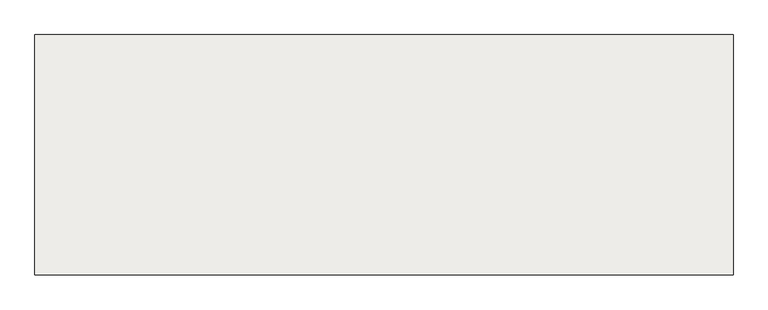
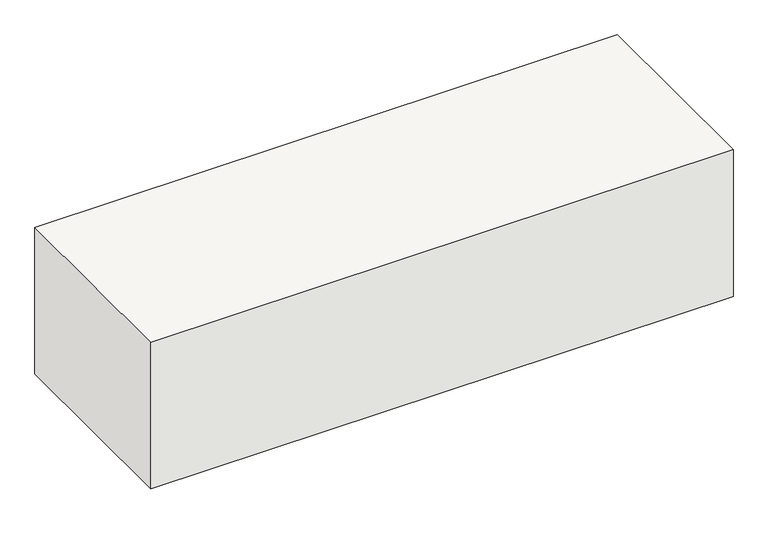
"""IFC4 building model written with IfcOpenShell, lengths in millimetres: slab geometry, ИЗТТ_Перекрытие : ИЗТТ_Перекрытие."""

from ifc_helpers import new_model, si_unit, frame, origin, place, context, project, spatial, polyline, outline, extrude, source, transform, mapped, element, save


def slab_f59de0b8(model_context):
    return source(origin(), model_context, "Body", "SweptSolid", [
        extrude(outline(polyline([(4922.6521551, -7719.8911289), (4922.6521551, -7767.8911289), (2898.6521551, -7767.8911289), (2898.6521551, -7719.8911289), (4922.6521551, -7719.8911289)])), frame((0.0, 0.0, 2655.0), z_axis=(0.0, 0.0, 1.0), x_axis=(1.0, 0.0, 0.0)), (0.0, 0.0, 1.0), 100.0),
        extrude(outline(polyline([(4922.6521551, -8372.8911289), (2898.6521551, -8372.8911289), (2898.6521551, -8324.8911289), (4922.6521551, -8324.8911289), (4922.6521551, -8372.8911289)])), frame((0.0, 0.0, 2655.0), z_axis=(0.0, 0.0, 1.0), x_axis=(1.0, 0.0, 0.0)), (0.0, 0.0, 1.0), 100.0),
        extrude(outline(polyline([(5210.6521551, -8546.3911289), (2598.6521551, -8546.3911289), (2598.6521551, -7646.3911289), (5210.6521551, -7646.3911289), (5210.6521551, -8546.3911289)])), frame((0.0, 0.0, 2755.0), z_axis=(0.0, 0.0, 1.0), x_axis=(1.0, 0.0, 0.0)), (0.0, 0.0, 1.0), 695.0),
    ])


if __name__ == "__main__":
    model = new_model("IFC4")
    model_context = context("Model", 3, world=origin())
    ifc_project = project(units=[si_unit("LENGTHUNIT", "METRE", prefix="MILLI")], contexts=[model_context])
    site = spatial("IfcSite", under=ifc_project)
    building = spatial("IfcBuilding", under=site)
    placement = place(None, origin())
    slab_shape = slab_f59de0b8(model_context)
    element("IfcSlab", 1, ObjectType="ИЗТТ_Перекрытие : ИЗТТ_Перекрытие", at=placement, inside=building, context=model_context, shape_type="MappedRepresentation", body=[
        mapped(slab_shape, transform((0.0, 0.0, 0.0), x_axis=(1.0, 0.0, 0.0), y_axis=(0.0, 1.0, 0.0), z_axis=(0.0, 0.0, 1.0))),
    ])
    save(model, "model.ifc")
